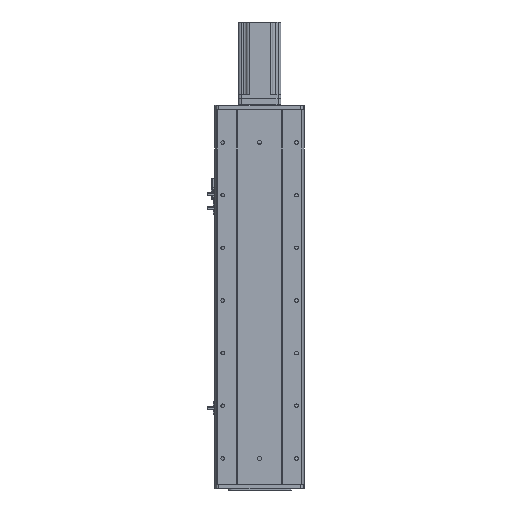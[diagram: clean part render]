
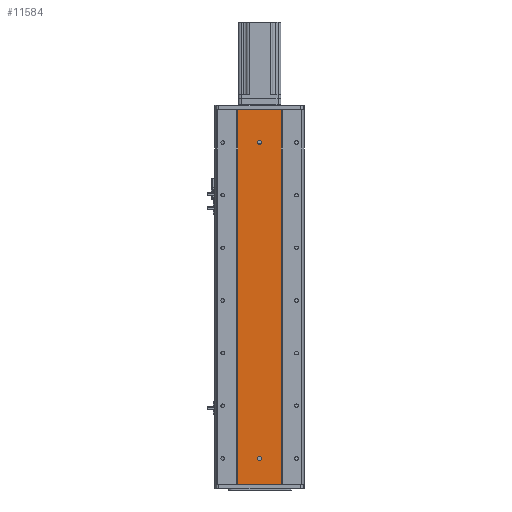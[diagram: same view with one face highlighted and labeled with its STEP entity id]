
A CAD part, front view. The second image highlights one B-rep face of the part: STEP entity #11584.
In plain terms, the highlighted planar face has unit normal (0, -1, 0).
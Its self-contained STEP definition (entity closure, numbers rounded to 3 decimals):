
#4855 = VERTEX_POINT ( 'NONE', #19200 ) ;
#4971 = VERTEX_POINT ( 'NONE', #19182 ) ;
#5074 = VERTEX_POINT ( 'NONE', #19253 ) ;
#5147 = VERTEX_POINT ( 'NONE', #19331 ) ;
#8853 = ORIENTED_EDGE ( 'NONE', *, *, #52914, .T. ) ;
#8866 = ORIENTED_EDGE ( 'NONE', *, *, #52991, .F. ) ;
#8871 = ORIENTED_EDGE ( 'NONE', *, *, #53040, .T. ) ;
#8878 = ORIENTED_EDGE ( 'NONE', *, *, #52656, .F. ) ;
#8885 = ORIENTED_EDGE ( 'NONE', *, *, #52789, .T. ) ;
#8899 = ORIENTED_EDGE ( 'NONE', *, *, #52978, .T. ) ;
#8955 = ORIENTED_EDGE ( 'NONE', *, *, #51878, .T. ) ;
#8956 = ORIENTED_EDGE ( 'NONE', *, *, #51877, .T. ) ;
#11584 = ADVANCED_FACE ( 'NONE', ( #39713, #39696, #39707 ), #64041, .F. ) ;
#13184 = EDGE_LOOP ( 'NONE', ( #8885, #8866, #8878, #8899 ) ) ;
#13200 = EDGE_LOOP ( 'NONE', ( #8956, #8871 ) ) ;
#13206 = EDGE_LOOP ( 'NONE', ( #8955, #8853 ) ) ;
#19182 = CARTESIAN_POINT ( 'NONE',  ( 5168.555, 335.574, 712. ) ) ;
#19200 = CARTESIAN_POINT ( 'NONE',  ( 5085.384, 335.574, 712. ) ) ;
#19253 = CARTESIAN_POINT ( 'NONE',  ( 5085.384, 335.574, 0. ) ) ;
#19331 = CARTESIAN_POINT ( 'NONE',  ( 5168.555, 335.574, 0. ) ) ;
#22164 = CARTESIAN_POINT ( 'NONE',  ( 5085.384, 335.574, 712. ) ) ;
#22166 = DIRECTION ( 'NONE',  ( 1., 0., 0. ) ) ;
#22409 = CARTESIAN_POINT ( 'NONE',  ( 5085.384, 335.574, 0. ) ) ;
#22415 = DIRECTION ( 'NONE',  ( 1., 0., 0. ) ) ;
#25746 = AXIS2_PLACEMENT_3D ( 'NONE', #63995, #64046, #64052 ) ;
#27112 = VERTEX_POINT ( 'NONE', #40776 ) ;
#27128 = VERTEX_POINT ( 'NONE', #40822 ) ;
#27141 = VERTEX_POINT ( 'NONE', #40769 ) ;
#27229 = VERTEX_POINT ( 'NONE', #40926 ) ;
#28324 = LINE ( 'NONE', #22164, #28329 ) ;
#28329 = VECTOR ( 'NONE', #22166, 1000. ) ;
#28443 = LINE ( 'NONE', #22409, #28486 ) ;
#28486 = VECTOR ( 'NONE', #22415, 1000. ) ;
#28522 = CIRCLE ( 'NONE', #46806, 4. ) ;
#28586 = LINE ( 'NONE', #57875, #28619 ) ;
#28589 = VECTOR ( 'NONE', #57742, 1000. ) ;
#28602 = LINE ( 'NONE', #57687, #28589 ) ;
#28619 = VECTOR ( 'NONE', #57817, 1000. ) ;
#28656 = CIRCLE ( 'NONE', #46864, 4. ) ;
#34788 = CIRCLE ( 'NONE', #46499, 4. ) ;
#34824 = CIRCLE ( 'NONE', #46508, 4. ) ;
#39696 = FACE_BOUND ( 'NONE', #13206, .T. ) ;
#39707 = FACE_OUTER_BOUND ( 'NONE', #13184, .T. ) ;
#39713 = FACE_BOUND ( 'NONE', #13200, .T. ) ;
#40769 = CARTESIAN_POINT ( 'NONE',  ( 5126.969, 335.574, 46. ) ) ;
#40776 = CARTESIAN_POINT ( 'NONE',  ( 5126.969, 335.574, 654. ) ) ;
#40822 = CARTESIAN_POINT ( 'NONE',  ( 5126.969, 335.574, 646. ) ) ;
#40926 = CARTESIAN_POINT ( 'NONE',  ( 5126.969, 335.574, 54. ) ) ;
#41856 = CARTESIAN_POINT ( 'NONE',  ( 5126.969, 335.574, 650. ) ) ;
#41882 = DIRECTION ( 'NONE',  ( 0., 1., 0. ) ) ;
#41998 = DIRECTION ( 'NONE',  ( 0., 1., 0. ) ) ;
#42007 = CARTESIAN_POINT ( 'NONE',  ( 5126.969, 335.574, 50. ) ) ;
#42013 = DIRECTION ( 'NONE',  ( -1., 0., 0. ) ) ;
#42018 = DIRECTION ( 'NONE',  ( -1., 0., 0. ) ) ;
#46499 = AXIS2_PLACEMENT_3D ( 'NONE', #42007, #41998, #42013 ) ;
#46508 = AXIS2_PLACEMENT_3D ( 'NONE', #41856, #41882, #42018 ) ;
#46806 = AXIS2_PLACEMENT_3D ( 'NONE', #57465, #57411, #57441 ) ;
#46864 = AXIS2_PLACEMENT_3D ( 'NONE', #58096, #58139, #58082 ) ;
#51877 = EDGE_CURVE ( 'NONE', #27128, #27112, #34824, .T. ) ;
#51878 = EDGE_CURVE ( 'NONE', #27141, #27229, #34788, .T. ) ;
#52656 = EDGE_CURVE ( 'NONE', #4855, #4971, #28324, .T. ) ;
#52789 = EDGE_CURVE ( 'NONE', #5074, #5147, #28443, .T. ) ;
#52914 = EDGE_CURVE ( 'NONE', #27229, #27141, #28522, .T. ) ;
#52978 = EDGE_CURVE ( 'NONE', #4855, #5074, #28602, .T. ) ;
#52991 = EDGE_CURVE ( 'NONE', #4971, #5147, #28586, .T. ) ;
#53040 = EDGE_CURVE ( 'NONE', #27112, #27128, #28656, .T. ) ;
#57411 = DIRECTION ( 'NONE',  ( 0., 1., 0. ) ) ;
#57441 = DIRECTION ( 'NONE',  ( -1., 0., 0. ) ) ;
#57465 = CARTESIAN_POINT ( 'NONE',  ( 5126.969, 335.574, 50. ) ) ;
#57687 = CARTESIAN_POINT ( 'NONE',  ( 5085.384, 335.574, 712. ) ) ;
#57742 = DIRECTION ( 'NONE',  ( 0., 0., -1. ) ) ;
#57817 = DIRECTION ( 'NONE',  ( 0., 0., -1. ) ) ;
#57875 = CARTESIAN_POINT ( 'NONE',  ( 5168.555, 335.574, 712. ) ) ;
#58082 = DIRECTION ( 'NONE',  ( -1., 0., 0. ) ) ;
#58096 = CARTESIAN_POINT ( 'NONE',  ( 5126.969, 335.574, 650. ) ) ;
#58139 = DIRECTION ( 'NONE',  ( 0., 1., 0. ) ) ;
#63995 = CARTESIAN_POINT ( 'NONE',  ( 5085.384, 335.574, 712. ) ) ;
#64041 = PLANE ( 'NONE',  #25746 ) ;
#64046 = DIRECTION ( 'NONE',  ( 0., 1., 0. ) ) ;
#64052 = DIRECTION ( 'NONE',  ( -1., 0., 0. ) ) ;
